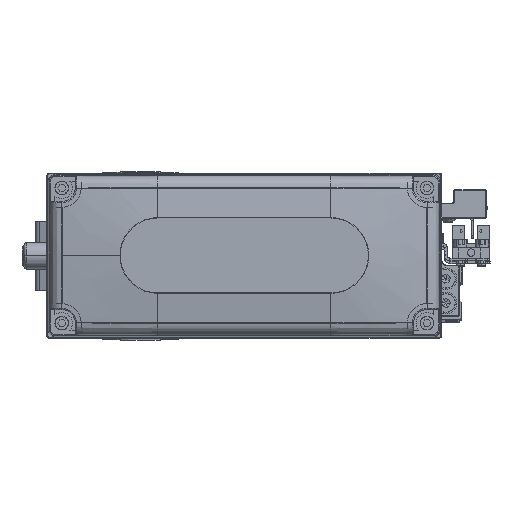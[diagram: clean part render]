
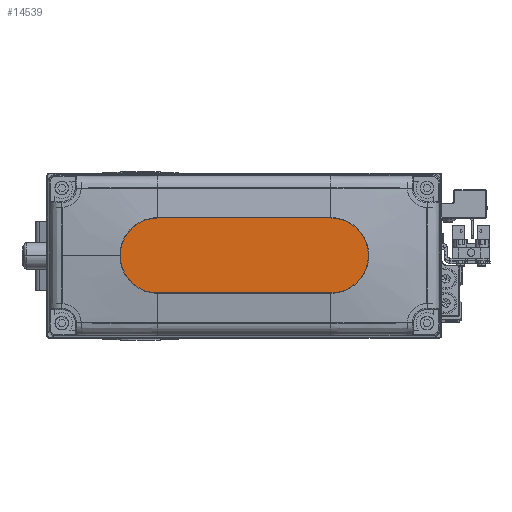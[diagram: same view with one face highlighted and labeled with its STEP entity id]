
A CAD part, top view. The second image highlights one B-rep face of the part: STEP entity #14539.
In plain terms, the highlighted planar face has unit normal (0, 0, 1).
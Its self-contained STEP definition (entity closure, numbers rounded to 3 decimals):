
#1194 = CARTESIAN_POINT ( 'NONE',  ( 32., 0., 35. ) ) ;
#1706 = CARTESIAN_POINT ( 'NONE',  ( -32., 14., 35. ) ) ;
#2538 = CIRCLE ( 'NONE', #28416, 14. ) ;
#2572 = AXIS2_PLACEMENT_3D ( 'NONE', #26144, #40267, #8545 ) ;
#2925 = ORIENTED_EDGE ( 'NONE', *, *, #35547, .T. ) ;
#4148 = CARTESIAN_POINT ( 'NONE',  ( 32., 14., 35. ) ) ;
#7123 = CARTESIAN_POINT ( 'NONE',  ( 32., -14., 35. ) ) ;
#8545 = DIRECTION ( 'NONE',  ( 1., 0., 0. ) ) ;
#8942 = VERTEX_POINT ( 'NONE', #32506 ) ;
#8957 = CARTESIAN_POINT ( 'NONE',  ( -32., 14., 35. ) ) ;
#9399 = CARTESIAN_POINT ( 'NONE',  ( -32., 0., 35. ) ) ;
#10730 = VECTOR ( 'NONE', #23077, 1000. ) ;
#11216 = VERTEX_POINT ( 'NONE', #28075 ) ;
#11301 = CARTESIAN_POINT ( 'NONE',  ( 32., 0., 35. ) ) ;
#11895 = VERTEX_POINT ( 'NONE', #4148 ) ;
#12024 = PLANE ( 'NONE',  #2572 ) ;
#13638 = CARTESIAN_POINT ( 'NONE',  ( -32., -14., 35. ) ) ;
#14539 = ADVANCED_FACE ( 'NONE', ( #43739 ), #12024, .T. ) ;
#15328 = DIRECTION ( 'NONE',  ( 0., 0., 1. ) ) ;
#20365 = EDGE_CURVE ( 'NONE', #44511, #11216, #44813, .T. ) ;
#20721 = CIRCLE ( 'NONE', #26633, 14. ) ;
#21672 = ORIENTED_EDGE ( 'NONE', *, *, #33711, .T. ) ;
#22920 = EDGE_CURVE ( 'NONE', #11895, #33211, #40679, .T. ) ;
#23077 = DIRECTION ( 'NONE',  ( -1., 0., 0. ) ) ;
#23530 = DIRECTION ( 'NONE',  ( 0., 0., 1. ) ) ;
#23728 = EDGE_LOOP ( 'NONE', ( #43722, #42055, #21672, #36633, #2925 ) ) ;
#24848 = AXIS2_PLACEMENT_3D ( 'NONE', #1194, #15328, #29439 ) ;
#25420 = DIRECTION ( 'NONE',  ( 0., 0., 1. ) ) ;
#26144 = CARTESIAN_POINT ( 'NONE',  ( 0., 0., 35. ) ) ;
#26633 = AXIS2_PLACEMENT_3D ( 'NONE', #9399, #23530, #37655 ) ;
#27766 = DIRECTION ( 'NONE',  ( 1., 0., 0. ) ) ;
#28075 = CARTESIAN_POINT ( 'NONE',  ( 46., 0., 35. ) ) ;
#28416 = AXIS2_PLACEMENT_3D ( 'NONE', #11301, #25420, #39558 ) ;
#29439 = DIRECTION ( 'NONE',  ( 1., 0., 0. ) ) ;
#32506 = CARTESIAN_POINT ( 'NONE',  ( -32., -14., 35. ) ) ;
#32878 = EDGE_CURVE ( 'NONE', #33211, #8942, #20721, .T. ) ;
#33211 = VERTEX_POINT ( 'NONE', #1706 ) ;
#33711 = EDGE_CURVE ( 'NONE', #8942, #44511, #34710, .T. ) ;
#34710 = LINE ( 'NONE', #13638, #43810 ) ;
#35547 = EDGE_CURVE ( 'NONE', #11216, #11895, #2538, .T. ) ;
#36633 = ORIENTED_EDGE ( 'NONE', *, *, #20365, .T. ) ;
#37655 = DIRECTION ( 'NONE',  ( 1., 0., 0. ) ) ;
#39558 = DIRECTION ( 'NONE',  ( 1., 0., 0. ) ) ;
#40267 = DIRECTION ( 'NONE',  ( 0., 0., 1. ) ) ;
#40679 = LINE ( 'NONE', #8957, #10730 ) ;
#42055 = ORIENTED_EDGE ( 'NONE', *, *, #32878, .T. ) ;
#43722 = ORIENTED_EDGE ( 'NONE', *, *, #22920, .T. ) ;
#43739 = FACE_OUTER_BOUND ( 'NONE', #23728, .T. ) ;
#43810 = VECTOR ( 'NONE', #27766, 1000. ) ;
#44511 = VERTEX_POINT ( 'NONE', #7123 ) ;
#44813 = CIRCLE ( 'NONE', #24848, 14. ) ;
